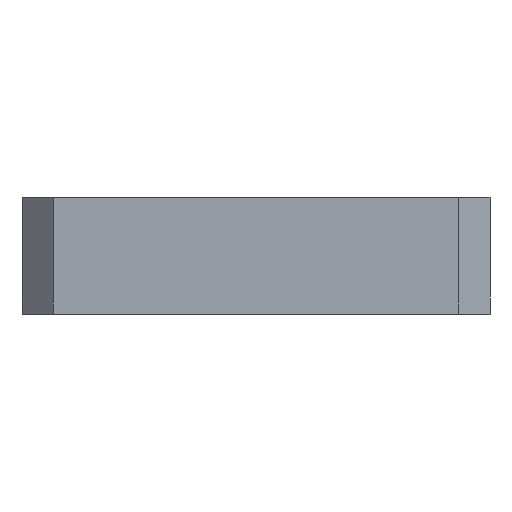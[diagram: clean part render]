
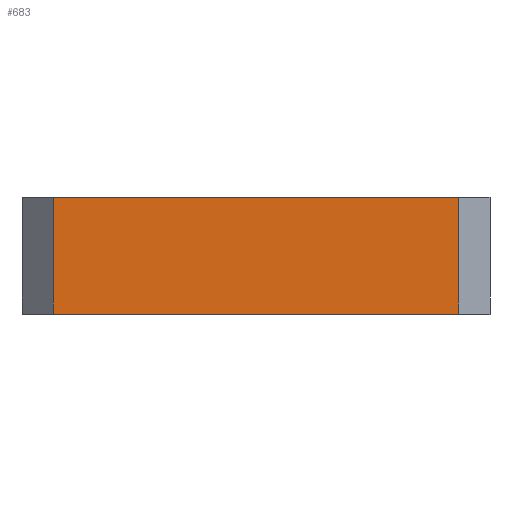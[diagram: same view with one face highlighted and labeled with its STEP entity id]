
A CAD part, top view. The second image highlights one B-rep face of the part: STEP entity #683.
In plain terms, the highlighted planar face has unit normal (0, 0, 1).
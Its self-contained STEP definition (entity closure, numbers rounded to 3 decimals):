
#6 = DIRECTION ( 'NONE',  ( 0., -1., 0. ) ) ;
#55 = CARTESIAN_POINT ( 'NONE',  ( -15., 3.75, 15. ) ) ;
#66 = CARTESIAN_POINT ( 'NONE',  ( -13., 3.75, 15. ) ) ;
#92 = VERTEX_POINT ( 'NONE', #481 ) ;
#105 = VECTOR ( 'NONE', #6, 1000. ) ;
#127 = DIRECTION ( 'NONE',  ( 0., 0., -1. ) ) ;
#134 = VERTEX_POINT ( 'NONE', #513 ) ;
#147 = EDGE_CURVE ( 'NONE', #851, #92, #748, .T. ) ;
#151 = VECTOR ( 'NONE', #654, 1000. ) ;
#169 = ORIENTED_EDGE ( 'NONE', *, *, #147, .F. ) ;
#173 = VECTOR ( 'NONE', #382, 1000. ) ;
#224 = FACE_OUTER_BOUND ( 'NONE', #274, .T. ) ;
#231 = CARTESIAN_POINT ( 'NONE',  ( -13., 3.75, 15. ) ) ;
#232 = VERTEX_POINT ( 'NONE', #316 ) ;
#274 = EDGE_LOOP ( 'NONE', ( #169, #909, #1003, #804 ) ) ;
#316 = CARTESIAN_POINT ( 'NONE',  ( -13., -3.75, 15. ) ) ;
#342 = CARTESIAN_POINT ( 'NONE',  ( -15., 3.75, 15. ) ) ;
#354 = DIRECTION ( 'NONE',  ( 1., 0., 0. ) ) ;
#365 = CARTESIAN_POINT ( 'NONE',  ( -15., -3.75, 15. ) ) ;
#382 = DIRECTION ( 'NONE',  ( 0., 1., 0. ) ) ;
#448 = LINE ( 'NONE', #365, #831 ) ;
#458 = EDGE_CURVE ( 'NONE', #134, #92, #461, .T. ) ;
#461 = LINE ( 'NONE', #939, #173 ) ;
#465 = LINE ( 'NONE', #66, #105 ) ;
#481 = CARTESIAN_POINT ( 'NONE',  ( 13., 3.75, 15. ) ) ;
#487 = EDGE_CURVE ( 'NONE', #851, #232, #465, .T. ) ;
#513 = CARTESIAN_POINT ( 'NONE',  ( 13., -3.75, 15. ) ) ;
#542 = DIRECTION ( 'NONE',  ( -1., 0., 0. ) ) ;
#654 = DIRECTION ( 'NONE',  ( 1., 0., 0. ) ) ;
#682 = PLANE ( 'NONE',  #901 ) ;
#683 = ADVANCED_FACE ( 'NONE', ( #224 ), #682, .F. ) ;
#748 = LINE ( 'NONE', #342, #151 ) ;
#804 = ORIENTED_EDGE ( 'NONE', *, *, #458, .T. ) ;
#831 = VECTOR ( 'NONE', #354, 1000. ) ;
#851 = VERTEX_POINT ( 'NONE', #231 ) ;
#901 = AXIS2_PLACEMENT_3D ( 'NONE', #55, #127, #542 ) ;
#909 = ORIENTED_EDGE ( 'NONE', *, *, #487, .T. ) ;
#939 = CARTESIAN_POINT ( 'NONE',  ( 13., 3.75, 15. ) ) ;
#961 = EDGE_CURVE ( 'NONE', #232, #134, #448, .T. ) ;
#1003 = ORIENTED_EDGE ( 'NONE', *, *, #961, .T. ) ;
